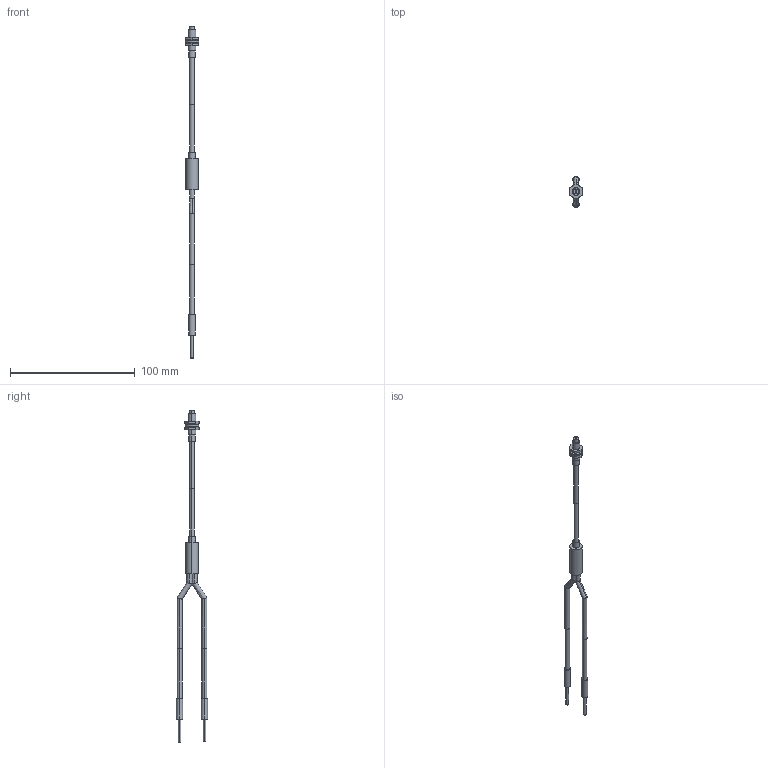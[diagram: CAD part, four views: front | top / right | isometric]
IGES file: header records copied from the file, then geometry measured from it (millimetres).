
Start section: SolidWorks IGES FILE using analytic representation for surfaces
Global section: file name: C:\Documents and Settings\yk0651\デスクトップ\3D_catalog_050904\0_IGES\FD-H35-M2.IGS; native system: SolidWorks 2004 by SolidWorks Corporation; preprocessor: Version 5.3; author: yk0651; date: 050904.184609; units: millimetre
Bounding box: 11 x 25 x 266 mm (x, y, z)
Volume: 7208.3 mm3; surface area: 6485.6 mm2
Topology: 7 solids, 7 shells, 86 faces, 180 edges, 120 vertices
Faces by surface type: revolution 48, plane 38
